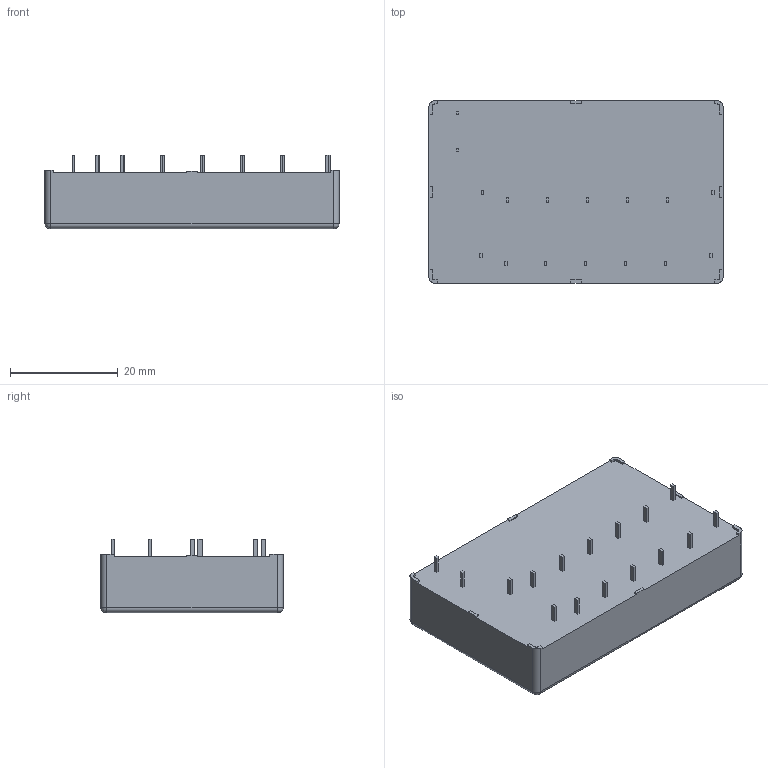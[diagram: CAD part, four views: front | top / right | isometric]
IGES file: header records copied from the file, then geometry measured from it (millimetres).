
Start section:  PTC IGES file: c-2045880-4-b-3d.igs
Global section: file name: c-2045880-4-b-3d.igs; native system: Creo Parametric by PTC Inc.; preprocessor: 2015200; author: workeradm; organization: Unknown; units: millimetre
Bounding box: 54.45 x 33.8 x 13.6 mm (x, y, z)
Surface area: 5572 mm2 (no closed solid volume)
Topology: 0 solids, 0 shells, 138 faces, 704 edges, 704 vertices
Faces by surface type: bspline 122, revolution 16
